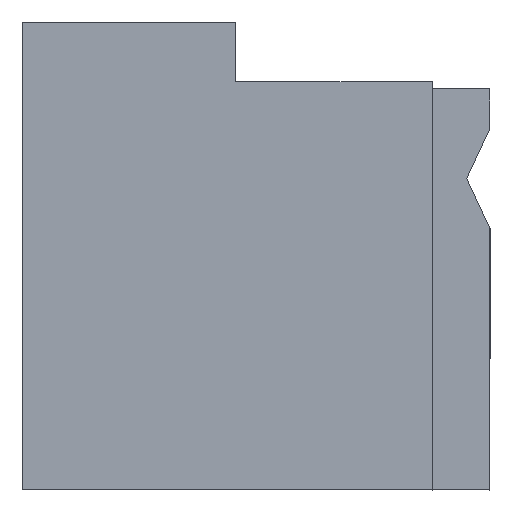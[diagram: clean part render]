
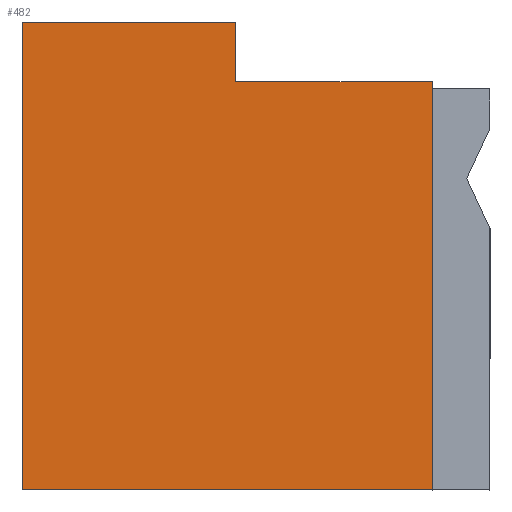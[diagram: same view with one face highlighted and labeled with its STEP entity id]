
A CAD part, left-side view. The second image highlights one B-rep face of the part: STEP entity #482.
In plain terms, the highlighted planar face has unit normal (-1, 0, 0).
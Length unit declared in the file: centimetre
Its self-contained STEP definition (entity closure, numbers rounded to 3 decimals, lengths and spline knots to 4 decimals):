
#25 = LINE ( 'NONE', #706, #440 ) ;
#35 = ORIENTED_EDGE ( 'NONE', *, *, #510, .F. ) ;
#39 = VECTOR ( 'NONE', #741, 100. ) ;
#62 = DIRECTION ( 'NONE',  ( 1., 0., 0. ) ) ;
#74 = LINE ( 'NONE', #753, #194 ) ;
#80 = VERTEX_POINT ( 'NONE', #166 ) ;
#81 = CARTESIAN_POINT ( 'NONE',  ( 0., 1000., 0. ) ) ;
#93 = CARTESIAN_POINT ( 'NONE',  ( 0., 543.5438, 872.3607 ) ) ;
#125 = CARTESIAN_POINT ( 'NONE',  ( 0., 1000., 1000. ) ) ;
#132 = VERTEX_POINT ( 'NONE', #238 ) ;
#146 = ORIENTED_EDGE ( 'NONE', *, *, #154, .T. ) ;
#150 = ORIENTED_EDGE ( 'NONE', *, *, #213, .F. ) ;
#154 = EDGE_CURVE ( 'NONE', #171, #132, #74, .T. ) ;
#155 = DIRECTION ( 'NONE',  ( 0., 0., -1. ) ) ;
#166 = CARTESIAN_POINT ( 'NONE',  ( 0., 123.2269, 872.3607 ) ) ;
#171 = VERTEX_POINT ( 'NONE', #561 ) ;
#173 = DIRECTION ( 'NONE',  ( 0., 0., -1. ) ) ;
#183 = VECTOR ( 'NONE', #625, 100. ) ;
#194 = VECTOR ( 'NONE', #511, 100. ) ;
#197 = EDGE_CURVE ( 'NONE', #132, #717, #632, .T. ) ;
#202 = EDGE_LOOP ( 'NONE', ( #655, #210, #35, #522, #150, #146 ) ) ;
#210 = ORIENTED_EDGE ( 'NONE', *, *, #386, .F. ) ;
#213 = EDGE_CURVE ( 'NONE', #171, #633, #574, .T. ) ;
#238 = CARTESIAN_POINT ( 'NONE',  ( 0., 1000., 0. ) ) ;
#255 = CARTESIAN_POINT ( 'NONE',  ( 0., 123.2269, 0. ) ) ;
#294 = LINE ( 'NONE', #784, #295 ) ;
#295 = VECTOR ( 'NONE', #665, 100. ) ;
#327 = DIRECTION ( 'NONE',  ( 0., -1., 0. ) ) ;
#352 = VECTOR ( 'NONE', #327, 100. ) ;
#360 = VERTEX_POINT ( 'NONE', #93 ) ;
#386 = EDGE_CURVE ( 'NONE', #80, #717, #25, .T. ) ;
#388 = LINE ( 'NONE', #681, #183 ) ;
#440 = VECTOR ( 'NONE', #155, 100. ) ;
#482 = ADVANCED_FACE ( 'NONE', ( #601 ), #487, .F. ) ;
#487 = PLANE ( 'NONE',  #653 ) ;
#510 = EDGE_CURVE ( 'NONE', #360, #80, #294, .T. ) ;
#511 = DIRECTION ( 'NONE',  ( 0., 0., -1. ) ) ;
#522 = ORIENTED_EDGE ( 'NONE', *, *, #705, .F. ) ;
#551 = CARTESIAN_POINT ( 'NONE',  ( 0., 543.5438, 1000. ) ) ;
#561 = CARTESIAN_POINT ( 'NONE',  ( 0., 1000., 1000. ) ) ;
#574 = LINE ( 'NONE', #125, #39 ) ;
#601 = FACE_OUTER_BOUND ( 'NONE', #202, .T. ) ;
#609 = CARTESIAN_POINT ( 'NONE',  ( 0., 1000., 1000. ) ) ;
#625 = DIRECTION ( 'NONE',  ( 0., 0., -1. ) ) ;
#632 = LINE ( 'NONE', #81, #352 ) ;
#633 = VERTEX_POINT ( 'NONE', #551 ) ;
#653 = AXIS2_PLACEMENT_3D ( 'NONE', #609, #62, #173 ) ;
#655 = ORIENTED_EDGE ( 'NONE', *, *, #197, .T. ) ;
#665 = DIRECTION ( 'NONE',  ( 0., -1., 0. ) ) ;
#681 = CARTESIAN_POINT ( 'NONE',  ( 0., 543.5438, 872.3607 ) ) ;
#705 = EDGE_CURVE ( 'NONE', #633, #360, #388, .T. ) ;
#706 = CARTESIAN_POINT ( 'NONE',  ( 0., 123.2269, 876.4168 ) ) ;
#717 = VERTEX_POINT ( 'NONE', #255 ) ;
#741 = DIRECTION ( 'NONE',  ( 0., -1., 0. ) ) ;
#753 = CARTESIAN_POINT ( 'NONE',  ( 0., 1000., 1000. ) ) ;
#784 = CARTESIAN_POINT ( 'NONE',  ( 0., 543.5438, 872.3607 ) ) ;
